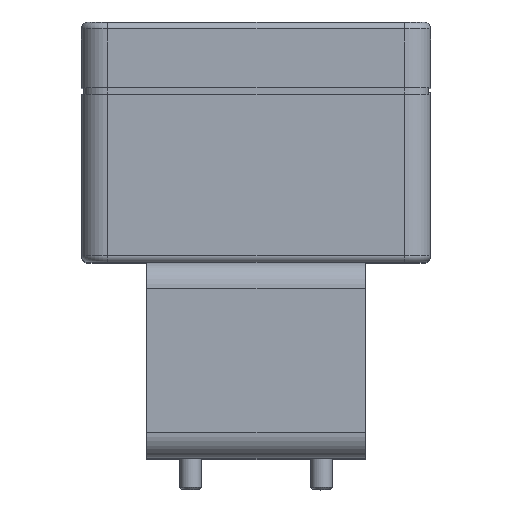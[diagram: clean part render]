
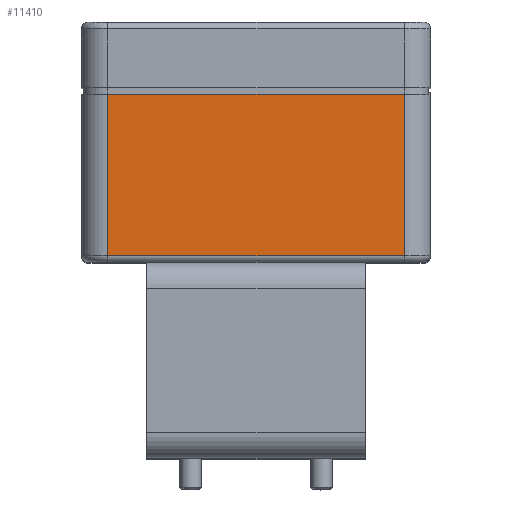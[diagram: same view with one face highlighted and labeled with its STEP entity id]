
A CAD part, top view. The second image highlights one B-rep face of the part: STEP entity #11410.
In plain terms, the highlighted planar face has unit normal (0, 0, 1).
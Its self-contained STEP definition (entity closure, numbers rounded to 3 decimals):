
#10706=CARTESIAN_POINT('',(40.674,68.488,80.968));
#10707=VERTEX_POINT('',#10706);
#10723=CARTESIAN_POINT('',(40.674,105.488,80.968));
#10724=VERTEX_POINT('',#10723);
#10732=CARTESIAN_POINT('',(40.674,105.488,80.968));
#10733=DIRECTION('',(0.0,-1.0,0.0));
#10734=VECTOR('',#10733,37.);
#10735=LINE('',#10732,#10734);
#10736=EDGE_CURVE('',#10724,#10707,#10735,.T.);
#11380=CARTESIAN_POINT('',(46.674,66.988,80.968));
#11381=DIRECTION('',(0.0,0.0,1.0));
#11382=DIRECTION('',(0.0,-1.0,0.0));
#11383=AXIS2_PLACEMENT_3D('',#11380,#11381,#11382);
#11384=PLANE('',#11383);
#11385=CARTESIAN_POINT('',(-27.326,68.488,80.968));
#11386=VERTEX_POINT('',#11385);
#11387=CARTESIAN_POINT('',(40.674,68.488,80.968));
#11388=DIRECTION('',(-1.0,0.0,0.0));
#11389=VECTOR('',#11388,68.0);
#11390=LINE('',#11387,#11389);
#11391=EDGE_CURVE('',#10707,#11386,#11390,.T.);
#11392=ORIENTED_EDGE('',*,*,#11391,.F.);
#11393=ORIENTED_EDGE('',*,*,#10736,.F.);
#11394=CARTESIAN_POINT('',(-27.326,105.488,80.968));
#11395=VERTEX_POINT('',#11394);
#11396=CARTESIAN_POINT('',(40.674,105.488,80.968));
#11397=DIRECTION('',(-1.0,0.0,0.0));
#11398=VECTOR('',#11397,68.);
#11399=LINE('',#11396,#11398);
#11400=EDGE_CURVE('',#10724,#11395,#11399,.T.);
#11401=ORIENTED_EDGE('',*,*,#11400,.T.);
#11402=CARTESIAN_POINT('',(-27.326,68.488,80.968));
#11403=DIRECTION('',(0.0,1.0,0.0));
#11404=VECTOR('',#11403,37.);
#11405=LINE('',#11402,#11404);
#11406=EDGE_CURVE('',#11386,#11395,#11405,.T.);
#11407=ORIENTED_EDGE('',*,*,#11406,.F.);
#11408=EDGE_LOOP('',(#11392,#11393,#11401,#11407));
#11409=FACE_OUTER_BOUND('',#11408,.T.);
#11410=ADVANCED_FACE('',(#11409),#11384,.T.);
